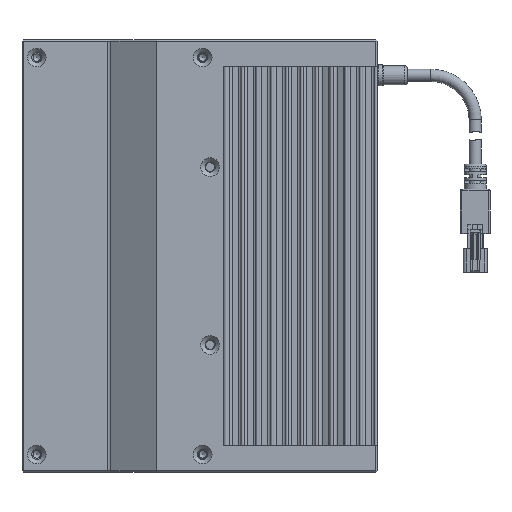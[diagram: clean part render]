
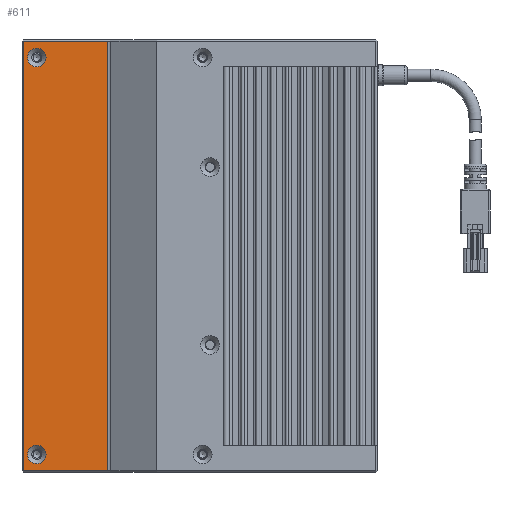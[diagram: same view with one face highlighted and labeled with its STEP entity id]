
A CAD part, left-side view. The second image highlights one B-rep face of the part: STEP entity #611.
In plain terms, the highlighted planar face has unit normal (-1, 0, 0).
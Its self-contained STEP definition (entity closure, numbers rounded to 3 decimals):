
#611 = ADVANCED_FACE ( 'NONE', ( #11909, #31180, #17215 ), #22635, .F. ) ;
#1234 = AXIS2_PLACEMENT_3D ( 'NONE', #33341, #27943, #20146 ) ;
#1716 = VERTEX_POINT ( 'NONE', #17216 ) ;
#1830 = CARTESIAN_POINT ( 'NONE',  ( -15.462, -6.987, 265. ) ) ;
#3266 = VECTOR ( 'NONE', #22594, 1000. ) ;
#6166 = EDGE_LOOP ( 'NONE', ( #14302 ) ) ;
#6169 = EDGE_CURVE ( 'NONE', #12049, #20791, #9536, .T. ) ;
#6549 = DIRECTION ( 'NONE',  ( 0., 0., 1. ) ) ;
#7567 = ORIENTED_EDGE ( 'NONE', *, *, #22630, .F. ) ;
#7865 = CARTESIAN_POINT ( 'NONE',  ( -15.462, 16.939, 259.5 ) ) ;
#8078 = LINE ( 'NONE', #10785, #15844 ) ;
#8113 = EDGE_CURVE ( 'NONE', #1716, #12049, #21657, .T. ) ;
#8389 = VERTEX_POINT ( 'NONE', #26058 ) ;
#8592 = DIRECTION ( 'NONE',  ( 0., 0., -1. ) ) ;
#9536 = LINE ( 'NONE', #29711, #23865 ) ;
#9914 = DIRECTION ( 'NONE',  ( -1., 0., 0. ) ) ;
#10468 = AXIS2_PLACEMENT_3D ( 'NONE', #7865, #9914, #18361 ) ;
#10547 = EDGE_LOOP ( 'NONE', ( #17050, #31902, #7567, #31936 ) ) ;
#10785 = CARTESIAN_POINT ( 'NONE',  ( -15.462, -7.561, 265. ) ) ;
#11909 = FACE_BOUND ( 'NONE', #16711, .T. ) ;
#12049 = VERTEX_POINT ( 'NONE', #13642 ) ;
#12242 = VECTOR ( 'NONE', #8592, 1000. ) ;
#13642 = CARTESIAN_POINT ( 'NONE',  ( -15.462, 21.439, 120. ) ) ;
#14015 = DIRECTION ( 'NONE',  ( 0., 0., 1. ) ) ;
#14286 = AXIS2_PLACEMENT_3D ( 'NONE', #22389, #32758, #6549 ) ;
#14302 = ORIENTED_EDGE ( 'NONE', *, *, #14946, .F. ) ;
#14946 = EDGE_CURVE ( 'NONE', #26395, #26395, #20033, .T. ) ;
#15844 = VECTOR ( 'NONE', #23695, 1000. ) ;
#16711 = EDGE_LOOP ( 'NONE', ( #21328 ) ) ;
#17050 = ORIENTED_EDGE ( 'NONE', *, *, #6169, .F. ) ;
#17105 = EDGE_CURVE ( 'NONE', #22263, #20791, #8078, .T. ) ;
#17140 = CARTESIAN_POINT ( 'NONE',  ( -15.462, -7.561, 120. ) ) ;
#17215 = FACE_OUTER_BOUND ( 'NONE', #10547, .T. ) ;
#17216 = CARTESIAN_POINT ( 'NONE',  ( -15.462, -6.987, 120. ) ) ;
#17294 = EDGE_CURVE ( 'NONE', #8389, #8389, #26086, .T. ) ;
#18361 = DIRECTION ( 'NONE',  ( 0., 0., 1. ) ) ;
#20033 = CIRCLE ( 'NONE', #10468, 3.15 ) ;
#20146 = DIRECTION ( 'NONE',  ( 0., 0., -1. ) ) ;
#20791 = VERTEX_POINT ( 'NONE', #30577 ) ;
#21328 = ORIENTED_EDGE ( 'NONE', *, *, #17294, .F. ) ;
#21481 = CARTESIAN_POINT ( 'NONE',  ( -15.462, -6.987, 263.5 ) ) ;
#21657 = LINE ( 'NONE', #17140, #3266 ) ;
#22263 = VERTEX_POINT ( 'NONE', #1830 ) ;
#22389 = CARTESIAN_POINT ( 'NONE',  ( -15.462, 16.939, 125.5 ) ) ;
#22594 = DIRECTION ( 'NONE',  ( 0., 1., 0. ) ) ;
#22630 = EDGE_CURVE ( 'NONE', #22263, #1716, #31235, .T. ) ;
#22635 = PLANE ( 'NONE',  #1234 ) ;
#23631 = CARTESIAN_POINT ( 'NONE',  ( -15.462, 16.939, 262.65 ) ) ;
#23695 = DIRECTION ( 'NONE',  ( 0., 1., 0. ) ) ;
#23865 = VECTOR ( 'NONE', #14015, 1000. ) ;
#26058 = CARTESIAN_POINT ( 'NONE',  ( -15.462, 16.939, 128.65 ) ) ;
#26086 = CIRCLE ( 'NONE', #14286, 3.15 ) ;
#26395 = VERTEX_POINT ( 'NONE', #23631 ) ;
#27943 = DIRECTION ( 'NONE',  ( 1., 0., 0. ) ) ;
#29711 = CARTESIAN_POINT ( 'NONE',  ( -15.462, 21.439, 263.5 ) ) ;
#30577 = CARTESIAN_POINT ( 'NONE',  ( -15.462, 21.439, 265. ) ) ;
#31180 = FACE_BOUND ( 'NONE', #6166, .T. ) ;
#31235 = LINE ( 'NONE', #21481, #12242 ) ;
#31902 = ORIENTED_EDGE ( 'NONE', *, *, #8113, .F. ) ;
#31936 = ORIENTED_EDGE ( 'NONE', *, *, #17105, .T. ) ;
#32758 = DIRECTION ( 'NONE',  ( -1., 0., 0. ) ) ;
#33341 = CARTESIAN_POINT ( 'NONE',  ( -15.462, -7.561, 263.5 ) ) ;
